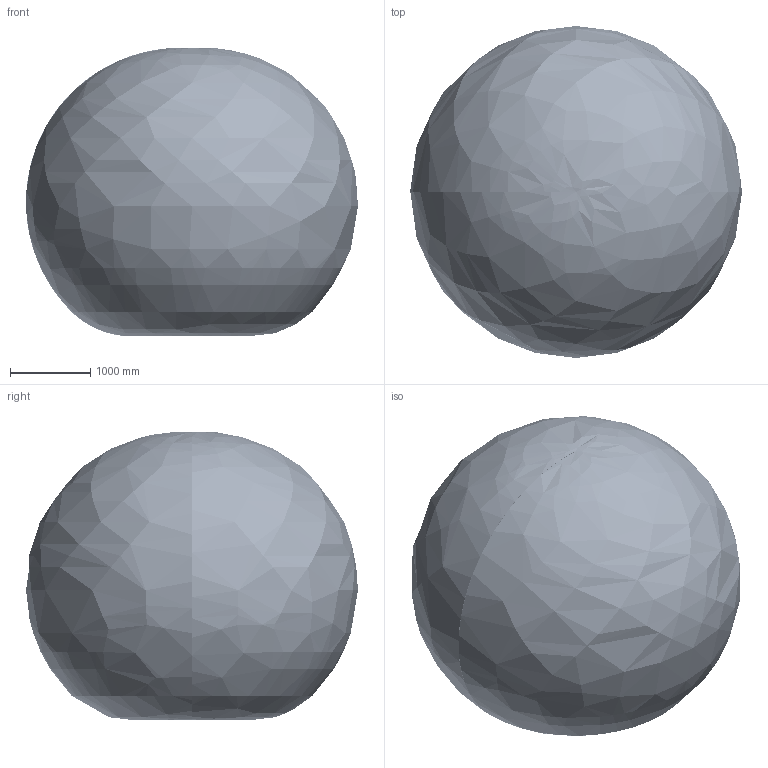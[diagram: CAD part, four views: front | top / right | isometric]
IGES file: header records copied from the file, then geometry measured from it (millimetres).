
Start section: SolidWorks IGES file using analytic representation for surfaces
Global section: file name: C:\Users\jezerd\OneDrive - Yaskawa Europe GmbH - EMEA\Desktop\Temp\GP35H\With range\GP35H.IGS; native system: SolidWorks 2024; preprocessor: SolidWorks 2024; author: jezerd; date: 240910.134059; units: millimetre
Bounding box: 4139.26 x 4138.66 x 3595.25 mm (x, y, z)
Surface area: 74224210.9 mm2 (no closed solid volume)
Topology: 0 solids, 0 shells, 10600 faces, 147723 edges, 147542 vertices
Faces by surface type: bspline 5819, revolution 4781
